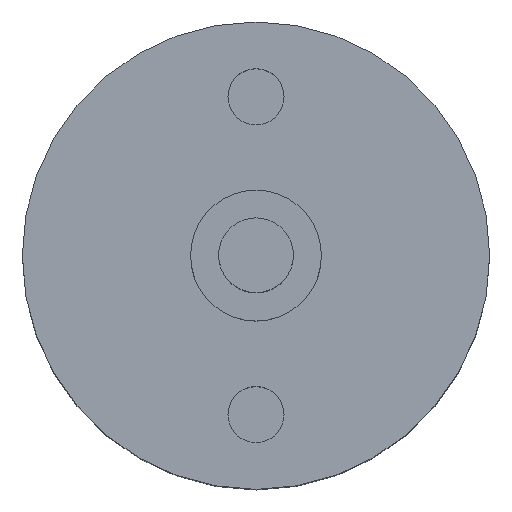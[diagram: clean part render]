
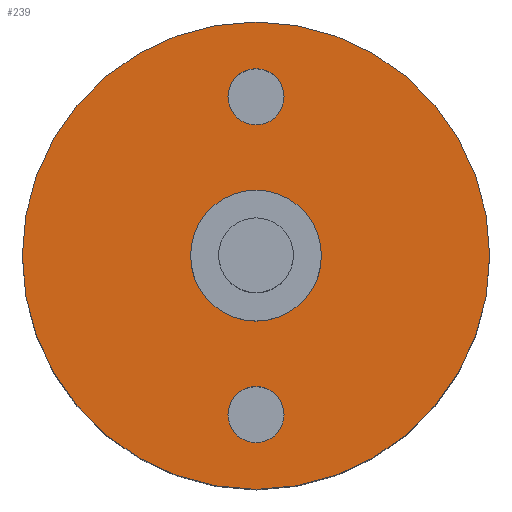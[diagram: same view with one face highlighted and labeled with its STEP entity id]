
A CAD part, top view. The second image highlights one B-rep face of the part: STEP entity #239.
In plain terms, the highlighted planar face has unit normal (0, 0, 1).
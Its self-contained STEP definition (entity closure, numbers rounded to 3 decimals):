
#17=FACE_BOUND('',#59,.T.);
#18=FACE_BOUND('',#60,.T.);
#19=FACE_BOUND('',#61,.T.);
#27=PLANE('',#290);
#41=FACE_OUTER_BOUND('',#58,.T.);
#58=EDGE_LOOP('',(#204,#205));
#59=EDGE_LOOP('',(#206));
#60=EDGE_LOOP('',(#207));
#61=EDGE_LOOP('',(#208,#209));
#79=CIRCLE('',#257,1.5);
#81=CIRCLE('',#261,1.5);
#93=CIRCLE('',#279,3.5);
#94=CIRCLE('',#280,3.5);
#99=CIRCLE('',#288,12.5);
#100=CIRCLE('',#289,12.5);
#103=VERTEX_POINT('',#384);
#105=VERTEX_POINT('',#391);
#117=VERTEX_POINT('',#424);
#118=VERTEX_POINT('',#426);
#123=VERTEX_POINT('',#440);
#124=VERTEX_POINT('',#441);
#127=EDGE_CURVE('',#103,#103,#79,.T.);
#130=EDGE_CURVE('',#105,#105,#81,.T.);
#146=EDGE_CURVE('',#118,#117,#93,.T.);
#147=EDGE_CURVE('',#117,#118,#94,.T.);
#152=EDGE_CURVE('',#123,#124,#99,.T.);
#153=EDGE_CURVE('',#124,#123,#100,.T.);
#204=ORIENTED_EDGE('',*,*,#152,.T.);
#205=ORIENTED_EDGE('',*,*,#153,.T.);
#206=ORIENTED_EDGE('',*,*,#127,.T.);
#207=ORIENTED_EDGE('',*,*,#130,.T.);
#208=ORIENTED_EDGE('',*,*,#146,.T.);
#209=ORIENTED_EDGE('',*,*,#147,.T.);
#239=ADVANCED_FACE('',(#41,#17,#18,#19),#27,.T.);
#257=AXIS2_PLACEMENT_3D('',#385,#299,#300);
#261=AXIS2_PLACEMENT_3D('',#392,#308,#309);
#279=AXIS2_PLACEMENT_3D('',#427,#348,#349);
#280=AXIS2_PLACEMENT_3D('',#428,#350,#351);
#288=AXIS2_PLACEMENT_3D('',#442,#366,#367);
#289=AXIS2_PLACEMENT_3D('',#443,#368,#369);
#290=AXIS2_PLACEMENT_3D('',#445,#371,#372);
#299=DIRECTION('center_axis',(0.,0.,-1.));
#300=DIRECTION('ref_axis',(1.,0.,0.));
#308=DIRECTION('center_axis',(0.,0.,-1.));
#309=DIRECTION('ref_axis',(1.,0.,0.));
#348=DIRECTION('center_axis',(0.,0.,-1.));
#349=DIRECTION('ref_axis',(1.,0.,0.));
#350=DIRECTION('center_axis',(0.,0.,-1.));
#351=DIRECTION('ref_axis',(1.,0.,0.));
#366=DIRECTION('center_axis',(0.,0.,1.));
#367=DIRECTION('ref_axis',(1.,0.,0.));
#368=DIRECTION('center_axis',(0.,0.,1.));
#369=DIRECTION('ref_axis',(1.,0.,0.));
#371=DIRECTION('center_axis',(0.,0.,1.));
#372=DIRECTION('ref_axis',(1.,0.,0.));
#384=CARTESIAN_POINT('',(-1.5,8.5,50.));
#385=CARTESIAN_POINT('Origin',(0.,8.5,50.));
#391=CARTESIAN_POINT('',(-1.5,-8.5,50.));
#392=CARTESIAN_POINT('Origin',(0.,-8.5,50.));
#424=CARTESIAN_POINT('',(-3.5,0.,50.));
#426=CARTESIAN_POINT('',(3.5,0.,50.));
#427=CARTESIAN_POINT('Origin',(0.,0.,
50.));
#428=CARTESIAN_POINT('Origin',(0.,0.,
50.));
#440=CARTESIAN_POINT('',(12.5,0.,50.));
#441=CARTESIAN_POINT('',(-12.5,0.,50.));
#442=CARTESIAN_POINT('Origin',(0.,0.,50.));
#443=CARTESIAN_POINT('Origin',(0.,0.,50.));
#445=CARTESIAN_POINT('Origin',(0.,0.,50.));
